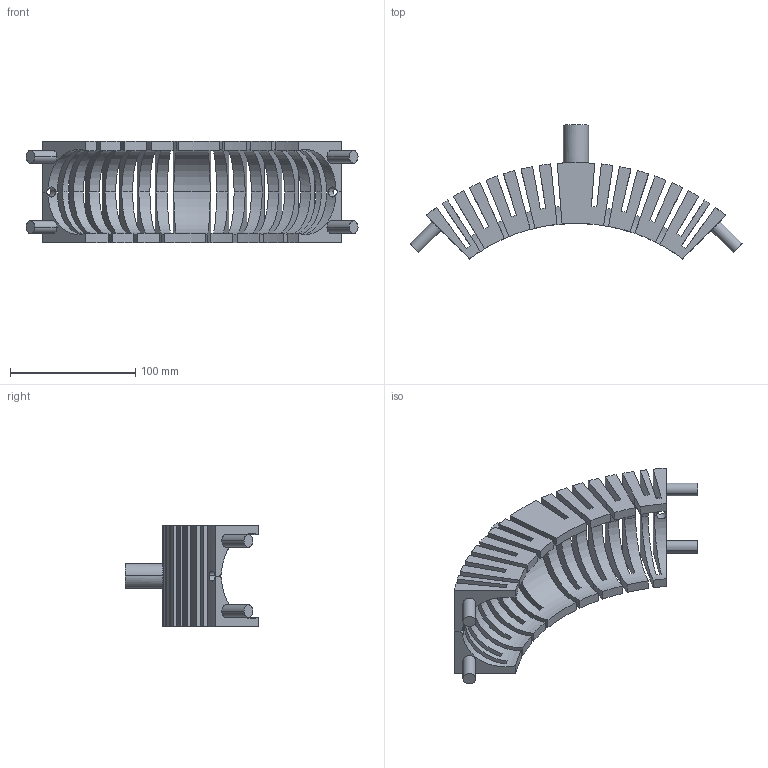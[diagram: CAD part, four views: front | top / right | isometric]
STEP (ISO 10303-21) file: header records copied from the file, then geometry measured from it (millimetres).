
FILE_DESCRIPTION(('STEP AP214'),'1');
FILE_NAME('C:/Users/mashimo/Documents/次世代エンジン/ボア６ｃｍ/TurboCAD/3D/tmp0.STEP','2025-07-11T09:07:04',(' '),(' '),'Spatial InterOp 3D',' ',' ');
FILE_SCHEMA(('automotive_design'));
Length unit declared in the file: millimetre
Products named in the file (1): 1
Bounding box: 264.72 x 106.77 x 81 mm (x, y, z)
Volume: 269063.2 mm3; surface area: 106824 mm2
Topology: 1 solids, 1 shells, 164 faces, 487 edges, 324 vertices
Faces by surface type: plane 83, cylinder 65, torus 16
Entity records: 8530 total; most frequent: CARTESIAN_POINT 2622, DIRECTION 1004, ORIENTED_EDGE 974, EDGE_CURVE 487, AXIS2_PLACEMENT_3D 382, VERTEX_POINT 324, LINE 240, VECTOR 240
